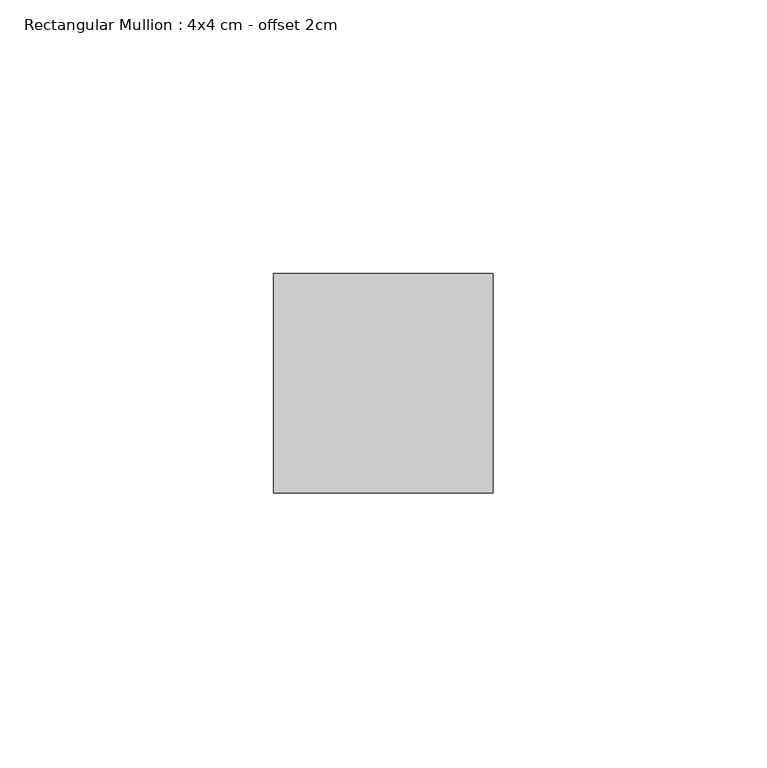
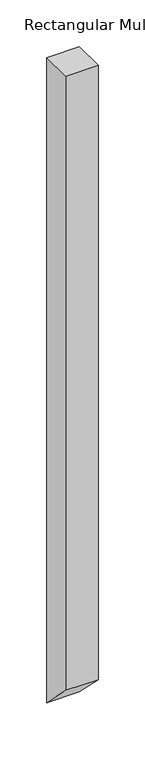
"""IFC4 building model written with IfcOpenShell, lengths in millimetres: member geometry, Rectangular Mullion : 4x4 cm - offset 2cm."""

from ifc_helpers import new_model, si_unit, frame, origin, place, context, project, spatial, polyline, outline, extrude, source, transform, mapped, element, save


def rectangular_mullion_4x4_cm_offset_2cm_a72ce177(model_context):
    return source(origin(), model_context, "Body", "SweptSolid", [
        extrude(outline(polyline([(0.0, 0.0), (40.0, 0.0), (40.0, -839.9999997), (0.0, -799.9999997), (0.0, 0.0)])), frame((-40.0, 0.0, 0.0), z_axis=(1.0, 0.0, 0.0), x_axis=(0.0, 1.0, 0.0)), (0.0, 0.0, 1.0), 40.0),
    ])


if __name__ == "__main__":
    model = new_model("IFC4")
    model_context = context("Model", 3, world=origin())
    ifc_project = project(units=[si_unit("LENGTHUNIT", "METRE", prefix="MILLI")], contexts=[model_context])
    site = spatial("IfcSite", under=ifc_project)
    building = spatial("IfcBuilding", under=site)
    placement = place(None, origin())
    rectangular_mullion_4x4_cm_offset_2cm_shape = rectangular_mullion_4x4_cm_offset_2cm_a72ce177(model_context)
    element("IfcMember", 1, ObjectType="Rectangular Mullion : 4x4 cm - offset 2cm", at=placement, inside=building, context=model_context, shape_type="MappedRepresentation", body=[
        mapped(rectangular_mullion_4x4_cm_offset_2cm_shape, transform((0.0, 0.0, 0.0), x_axis=(1.0, 0.0, 0.0), y_axis=(0.0, 1.0, 0.0), z_axis=(0.0, 0.0, 1.0))),
    ])
    save(model, "model.ifc")
